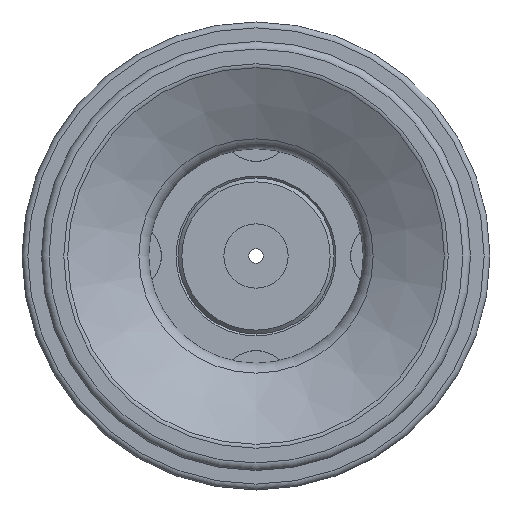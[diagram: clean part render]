
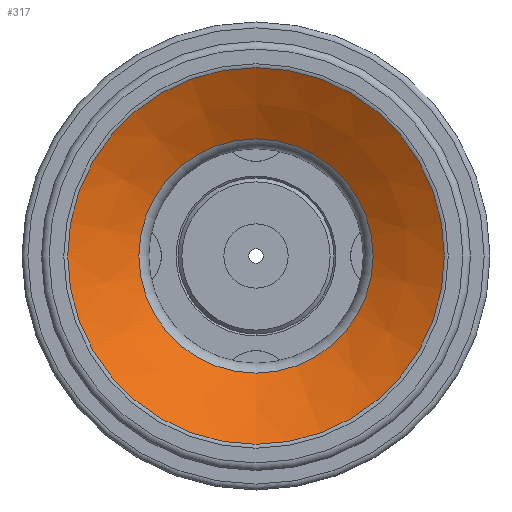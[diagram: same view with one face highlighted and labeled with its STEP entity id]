
A CAD part, front view. The second image highlights one B-rep face of the part: STEP entity #317.
In plain terms, the highlighted conical face has half-angle 60.358 degrees and reference radius 6.005 mm.
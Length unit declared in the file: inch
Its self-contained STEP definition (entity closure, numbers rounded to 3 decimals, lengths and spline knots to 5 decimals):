
#128 = EDGE_CURVE ( 'NONE', #1096, #1096, #2523, .T. ) ;
#240 = ORIENTED_EDGE ( 'NONE', *, *, #2665, .T. ) ;
#260 = DIRECTION ( 'NONE',  ( 0., -1., 0. ) ) ;
#317 = ADVANCED_FACE ( 'NONE', ( #2020, #563 ), #2710, .F. ) ;
#336 = CARTESIAN_POINT ( 'NONE',  ( 36.72742, 38.17365, 0. ) ) ;
#375 = DIRECTION ( 'NONE',  ( 0., 0., -1. ) ) ;
#563 = FACE_BOUND ( 'NONE', #2509, .T. ) ;
#726 = DIRECTION ( 'NONE',  ( 0., 0., -1. ) ) ;
#778 = CARTESIAN_POINT ( 'NONE',  ( 36.72742, 38.09182, 0. ) ) ;
#912 = AXIS2_PLACEMENT_3D ( 'NONE', #778, #1621, #375 ) ;
#959 = ORIENTED_EDGE ( 'NONE', *, *, #128, .F. ) ;
#1096 = VERTEX_POINT ( 'NONE', #2054 ) ;
#1172 = VERTEX_POINT ( 'NONE', #2111 ) ;
#1373 = DIRECTION ( 'NONE',  ( 0., 0., -1. ) ) ;
#1519 = EDGE_LOOP ( 'NONE', ( #240 ) ) ;
#1621 = DIRECTION ( 'NONE',  ( 0., -1., 0. ) ) ;
#1739 = CARTESIAN_POINT ( 'NONE',  ( 36.72742, 38.17365, 0. ) ) ;
#1795 = DIRECTION ( 'NONE',  ( 0., -1., 0. ) ) ;
#1872 = CIRCLE ( 'NONE', #912, 0.38024 ) ;
#1952 = AXIS2_PLACEMENT_3D ( 'NONE', #1739, #260, #726 ) ;
#2020 = FACE_OUTER_BOUND ( 'NONE', #1519, .T. ) ;
#2054 = CARTESIAN_POINT ( 'NONE',  ( 36.72742, 38.17365, -0.23643 ) ) ;
#2111 = CARTESIAN_POINT ( 'NONE',  ( 36.72742, 38.09182, -0.38024 ) ) ;
#2294 = AXIS2_PLACEMENT_3D ( 'NONE', #336, #1795, #1373 ) ;
#2509 = EDGE_LOOP ( 'NONE', ( #959 ) ) ;
#2523 = CIRCLE ( 'NONE', #1952, 0.23643 ) ;
#2665 = EDGE_CURVE ( 'NONE', #1172, #1172, #1872, .T. ) ;
#2710 = CONICAL_SURFACE ( 'NONE', #2294, 0.23643, 1.053 ) ;
